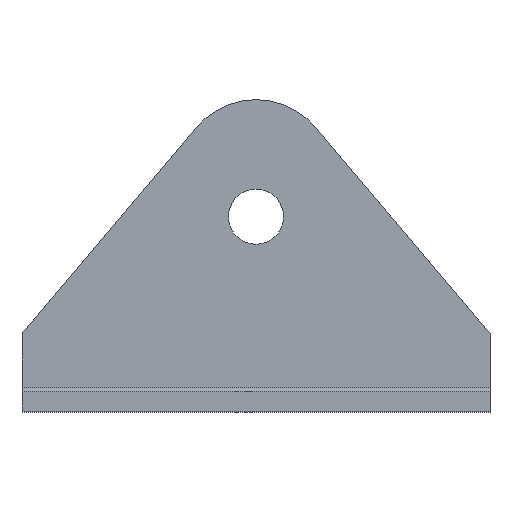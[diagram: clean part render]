
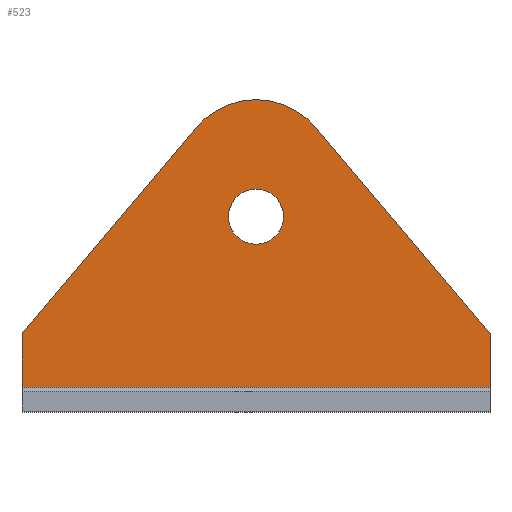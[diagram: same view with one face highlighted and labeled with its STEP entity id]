
A CAD part, top view. The second image highlights one B-rep face of the part: STEP entity #523.
In plain terms, the highlighted planar face has unit normal (0, 0, 1).
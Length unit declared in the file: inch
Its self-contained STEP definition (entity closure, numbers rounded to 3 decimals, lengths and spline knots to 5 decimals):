
#5 = LINE ( 'NONE', #779, #230 ) ;
#42 = CIRCLE ( 'NONE', #435, 0.25 ) ;
#52 = VECTOR ( 'NONE', #765, 39.37008 ) ;
#71 = LINE ( 'NONE', #736, #99 ) ;
#80 = FACE_BOUND ( 'NONE', #174, .T. ) ;
#82 = ORIENTED_EDGE ( 'NONE', *, *, #436, .F. ) ;
#88 = FACE_OUTER_BOUND ( 'NONE', #107, .T. ) ;
#99 = VECTOR ( 'NONE', #735, 39.37008 ) ;
#107 = EDGE_LOOP ( 'NONE', ( #82, #134, #323, #301, #322, #118 ) ) ;
#118 = ORIENTED_EDGE ( 'NONE', *, *, #393, .F. ) ;
#134 = ORIENTED_EDGE ( 'NONE', *, *, #456, .F. ) ;
#174 = EDGE_LOOP ( 'NONE', ( #304, #302 ) ) ;
#182 = VECTOR ( 'NONE', #787, 39.37008 ) ;
#192 = LINE ( 'NONE', #807, #182 ) ;
#210 = LINE ( 'NONE', #768, #265 ) ;
#230 = VECTOR ( 'NONE', #778, 39.37008 ) ;
#243 = CIRCLE ( 'NONE', #406, 0.0885 ) ;
#265 = VECTOR ( 'NONE', #767, 39.37008 ) ;
#273 = LINE ( 'NONE', #766, #52 ) ;
#274 = CIRCLE ( 'NONE', #414, 0.0885 ) ;
#301 = ORIENTED_EDGE ( 'NONE', *, *, #445, .T. ) ;
#302 = ORIENTED_EDGE ( 'NONE', *, *, #420, .F. ) ;
#304 = ORIENTED_EDGE ( 'NONE', *, *, #444, .F. ) ;
#322 = ORIENTED_EDGE ( 'NONE', *, *, #457, .F. ) ;
#323 = ORIENTED_EDGE ( 'NONE', *, *, #480, .F. ) ;
#393 = EDGE_CURVE ( 'NONE', #896, #916, #42, .T. ) ;
#402 = AXIS2_PLACEMENT_3D ( 'NONE', #674, #645, #644 ) ;
#406 = AXIS2_PLACEMENT_3D ( 'NONE', #797, #796, #795 ) ;
#414 = AXIS2_PLACEMENT_3D ( 'NONE', #784, #782, #781 ) ;
#420 = EDGE_CURVE ( 'NONE', #874, #897, #243, .T. ) ;
#435 = AXIS2_PLACEMENT_3D ( 'NONE', #832, #831, #830 ) ;
#436 = EDGE_CURVE ( 'NONE', #930, #896, #192, .T. ) ;
#444 = EDGE_CURVE ( 'NONE', #897, #874, #274, .T. ) ;
#445 = EDGE_CURVE ( 'NONE', #915, #922, #5, .T. ) ;
#456 = EDGE_CURVE ( 'NONE', #907, #930, #210, .T. ) ;
#457 = EDGE_CURVE ( 'NONE', #916, #922, #273, .T. ) ;
#480 = EDGE_CURVE ( 'NONE', #915, #907, #71, .T. ) ;
#523 = ADVANCED_FACE ( 'NONE', ( #80, #88 ), #660, .T. ) ;
#567 = CARTESIAN_POINT ( 'NONE',  ( 0.0885, 0.625, 0.0625 ) ) ;
#571 = CARTESIAN_POINT ( 'NONE',  ( -0.19093, 0.91139, 0.0625 ) ) ;
#572 = CARTESIAN_POINT ( 'NONE',  ( -0.0885, 0.625, 0.0625 ) ) ;
#582 = CARTESIAN_POINT ( 'NONE',  ( -0.75, 0.07813, 0.0625 ) ) ;
#592 = CARTESIAN_POINT ( 'NONE',  ( 0.75, 0.07813, 0.0625 ) ) ;
#594 = CARTESIAN_POINT ( 'NONE',  ( 0.19093, 0.91139, 0.0625 ) ) ;
#600 = CARTESIAN_POINT ( 'NONE',  ( 0.75, 0.25, 0.0625 ) ) ;
#606 = CARTESIAN_POINT ( 'NONE',  ( -0.75, 0.25, 0.0625 ) ) ;
#644 = DIRECTION ( 'NONE',  ( 1., 0., 0. ) ) ;
#645 = DIRECTION ( 'NONE',  ( 0., 0., 1. ) ) ;
#660 = PLANE ( 'NONE',  #402 ) ;
#674 = CARTESIAN_POINT ( 'NONE',  ( 0.75, 0.07813, 0.0625 ) ) ;
#735 = DIRECTION ( 'NONE',  ( -1., 0., 0. ) ) ;
#736 = CARTESIAN_POINT ( 'NONE',  ( 0.75, 0.07813, 0.0625 ) ) ;
#765 = DIRECTION ( 'NONE',  ( 0.646, -0.764, 0. ) ) ;
#766 = CARTESIAN_POINT ( 'NONE',  ( 0.83474, 0.14975, 0.0625 ) ) ;
#767 = DIRECTION ( 'NONE',  ( 0., 1., 0. ) ) ;
#768 = CARTESIAN_POINT ( 'NONE',  ( -0.75, 0.07813, 0.0625 ) ) ;
#778 = DIRECTION ( 'NONE',  ( 0., 1., 0. ) ) ;
#779 = CARTESIAN_POINT ( 'NONE',  ( 0.75, 0.07813, 0.0625 ) ) ;
#781 = DIRECTION ( 'NONE',  ( 1., 0., 0. ) ) ;
#782 = DIRECTION ( 'NONE',  ( 0., 0., 1. ) ) ;
#784 = CARTESIAN_POINT ( 'NONE',  ( 0., 0.625, 0.0625 ) ) ;
#787 = DIRECTION ( 'NONE',  ( 0.646, 0.764, 0. ) ) ;
#795 = DIRECTION ( 'NONE',  ( 1., 0., 0. ) ) ;
#796 = DIRECTION ( 'NONE',  ( 0., 0., 1. ) ) ;
#797 = CARTESIAN_POINT ( 'NONE',  ( 0., 0.625, 0.0625 ) ) ;
#807 = CARTESIAN_POINT ( 'NONE',  ( -0.20961, 0.88929, 0.0625 ) ) ;
#830 = DIRECTION ( 'NONE',  ( 1., 0., 0. ) ) ;
#831 = DIRECTION ( 'NONE',  ( 0., 0., -1. ) ) ;
#832 = CARTESIAN_POINT ( 'NONE',  ( 0., 0.75, 0.0625 ) ) ;
#874 = VERTEX_POINT ( 'NONE', #567 ) ;
#896 = VERTEX_POINT ( 'NONE', #571 ) ;
#897 = VERTEX_POINT ( 'NONE', #572 ) ;
#907 = VERTEX_POINT ( 'NONE', #582 ) ;
#915 = VERTEX_POINT ( 'NONE', #592 ) ;
#916 = VERTEX_POINT ( 'NONE', #594 ) ;
#922 = VERTEX_POINT ( 'NONE', #600 ) ;
#930 = VERTEX_POINT ( 'NONE', #606 ) ;
